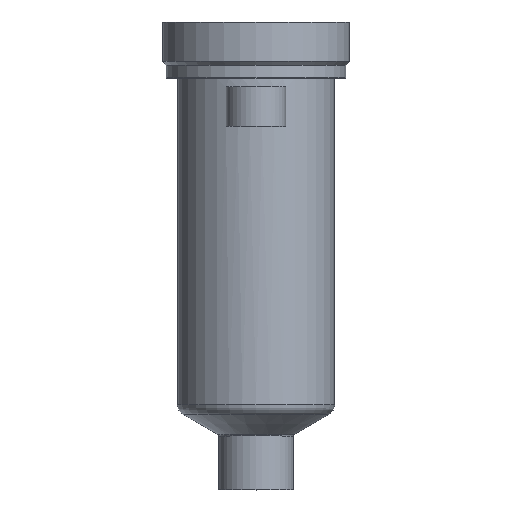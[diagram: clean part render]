
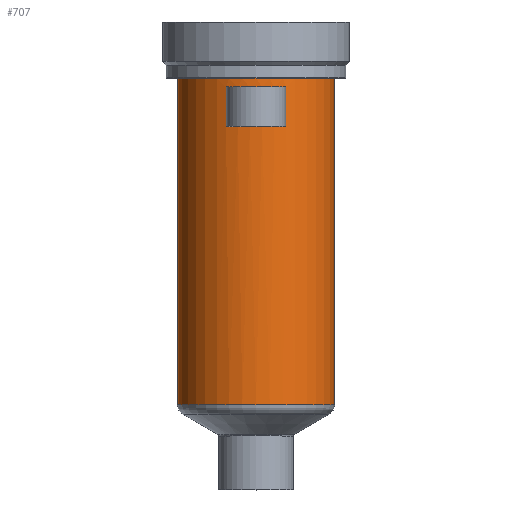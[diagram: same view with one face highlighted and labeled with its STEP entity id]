
A CAD part, top view. The second image highlights one B-rep face of the part: STEP entity #707.
In plain terms, the highlighted cylindrical face has radius 21 mm (diameter 42 mm), a partial arc.
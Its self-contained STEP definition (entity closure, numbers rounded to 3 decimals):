
#199=DIRECTION('',(0.,-1.,0.));
#200=VECTOR('',#199,87.228);
#201=CARTESIAN_POINT('',(21.,0.,0.));
#202=LINE('',#201,#200);
#203=CARTESIAN_POINT('',(0.,-87.228,0.));
#204=DIRECTION('',(0.,1.,0.));
#205=DIRECTION('',(-1.,0.,0.));
#206=AXIS2_PLACEMENT_3D('',#203,#204,#205);
#208=DIRECTION('',(0.,1.,0.));
#209=VECTOR('',#208,87.228);
#210=CARTESIAN_POINT('',(-21.,-87.228,0.));
#211=LINE('',#210,#209);
#212=CARTESIAN_POINT('',(0.,0.,0.));
#213=DIRECTION('',(0.,1.,0.));
#214=DIRECTION('',(-1.,0.,0.));
#215=AXIS2_PLACEMENT_3D('',#212,#213,#214);
#293=DIRECTION('',(0.,-1.,0.));
#294=VECTOR('',#293,10.5);
#295=CARTESIAN_POINT('',(-8.,-2.5,19.416));
#296=LINE('',#295,#294);
#297=CARTESIAN_POINT('',(0.,-13.,0.));
#298=DIRECTION('',(0.,1.,0.));
#299=DIRECTION('',(-0.381,0.,0.925));
#300=AXIS2_PLACEMENT_3D('',#297,#298,#299);
#323=CARTESIAN_POINT('',(0.,-2.5,0.));
#324=DIRECTION('',(0.,-1.,0.));
#325=DIRECTION('',(0.381,0.,0.925));
#326=AXIS2_PLACEMENT_3D('',#323,#324,#325);
#341=DIRECTION('',(0.,-1.,0.));
#342=VECTOR('',#341,10.5);
#343=CARTESIAN_POINT('',(8.,-2.5,19.416));
#344=LINE('',#343,#342);
#402=CARTESIAN_POINT('',(-21.,0.,0.));
#403=CARTESIAN_POINT('',(21.,0.,0.));
#404=VERTEX_POINT('',#402);
#405=VERTEX_POINT('',#403);
#414=CARTESIAN_POINT('',(-8.,-2.5,19.416));
#415=VERTEX_POINT('',#414);
#416=CARTESIAN_POINT('',(8.,-2.5,19.416));
#417=VERTEX_POINT('',#416);
#454=CARTESIAN_POINT('',(21.,-87.228,0.));
#455=VERTEX_POINT('',#454);
#464=CARTESIAN_POINT('',(-21.,-87.228,0.));
#465=VERTEX_POINT('',#464);
#466=CARTESIAN_POINT('',(-8.,-13.,19.416));
#467=CARTESIAN_POINT('',(8.,-13.,19.416));
#468=VERTEX_POINT('',#466);
#469=VERTEX_POINT('',#467);
#685=CARTESIAN_POINT('',(0.,16.4,0.));
#686=DIRECTION('',(0.,-1.,0.));
#687=DIRECTION('',(-1.,0.,0.));
#688=AXIS2_PLACEMENT_3D('',#685,#686,#687);
#689=CYLINDRICAL_SURFACE('',#688,21.);
#690=ORIENTED_EDGE('',*,*,#679,.T.);
#692=ORIENTED_EDGE('',*,*,#691,.F.);
#693=ORIENTED_EDGE('',*,*,#675,.T.);
#694=ORIENTED_EDGE('',*,*,#665,.T.);
#695=EDGE_LOOP('',(#690,#692,#693,#694));
#696=FACE_OUTER_BOUND('',#695,.F.);
#698=ORIENTED_EDGE('',*,*,#697,.T.);
#700=ORIENTED_EDGE('',*,*,#699,.T.);
#702=ORIENTED_EDGE('',*,*,#701,.F.);
#704=ORIENTED_EDGE('',*,*,#703,.T.);
#705=EDGE_LOOP('',(#698,#700,#702,#704));
#706=FACE_BOUND('',#705,.F.);
#707=ADVANCED_FACE('',(#696,#706),#689,.T.);
#207=CIRCLE('',#206,21.);
#216=CIRCLE('',#215,21.);
#301=CIRCLE('',#300,21.);
#327=CIRCLE('',#326,21.);
#665=EDGE_CURVE('',#404,#405,#216,.T.);
#675=EDGE_CURVE('',#465,#404,#211,.T.);
#679=EDGE_CURVE('',#405,#455,#202,.T.);
#691=EDGE_CURVE('',#465,#455,#207,.T.);
#697=EDGE_CURVE('',#415,#468,#296,.T.);
#699=EDGE_CURVE('',#468,#469,#301,.T.);
#701=EDGE_CURVE('',#417,#469,#344,.T.);
#703=EDGE_CURVE('',#417,#415,#327,.T.);
